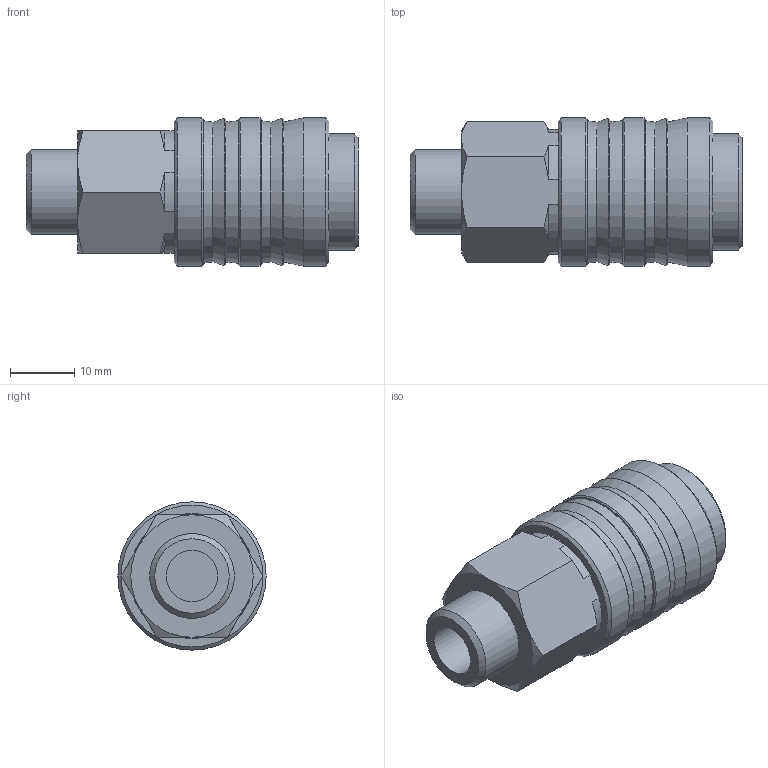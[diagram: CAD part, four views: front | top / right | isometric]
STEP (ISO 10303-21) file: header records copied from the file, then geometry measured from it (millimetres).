
FILE_DESCRIPTION(/* description */ (''),/* implementation_level */ '2;1');
FILE_NAME(/* name */ 'S:\_Tecnico\ArchivioUT\_Disegni3D ingombri\DISEGNI 3D per ingombri\GD\GD100014.stp',/* time_stamp */ '2020-11-19T08:45:54+01:00',/* author */ ('ufficiotecnico3'),/* organization */ (''),/* preprocessor_version */ 'ST-DEVELOPER v18',/* originating_system */ 'Autodesk Inventor 2020',/* authorisation */ '');
FILE_SCHEMA (('AUTOMOTIVE_DESIGN { 1 0 10303 214 3 1 1 }'));
Length unit declared in the file: millimetre
Products named in the file (1): GD100014
Bounding box: 51.5 x 23 x 23 mm (x, y, z)
Volume: 12746.9 mm3; surface area: 7654 mm2
Topology: 1 solids, 1 shells, 72 faces, 188 edges, 118 vertices
Faces by surface type: cone 28, plane 27, cylinder 17
Full cylindrical faces by diameter (mm): 8 x1, 10 x1, 12 x1, 13.157 x1, 18 x1, 18.4 x1, 19 x1, 19.4 x1, 23 x3
Entity records: 2286 total; most frequent: CARTESIAN_POINT 427, DIRECTION 417, ORIENTED_EDGE 376, EDGE_CURVE 188, AXIS2_PLACEMENT_3D 180, VERTEX_POINT 118, CIRCLE 107, EDGE_LOOP 85
